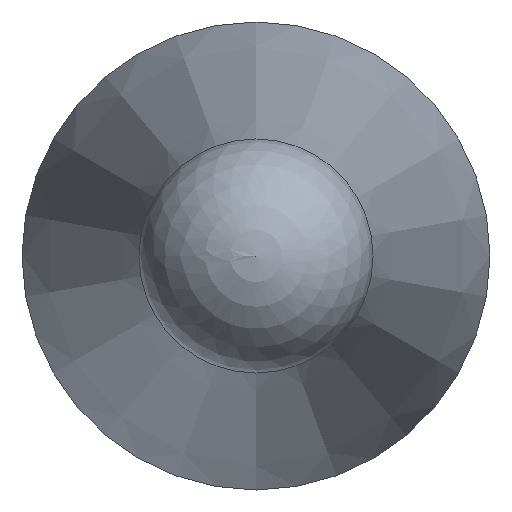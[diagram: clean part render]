
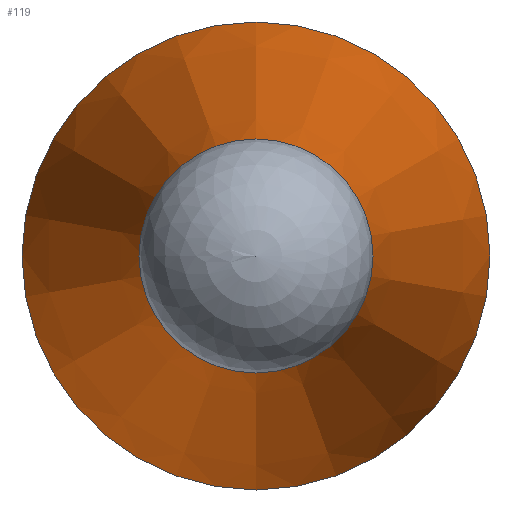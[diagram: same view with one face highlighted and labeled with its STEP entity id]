
A CAD part, left-side view. The second image highlights one B-rep face of the part: STEP entity #119.
In plain terms, the highlighted conical face has half-angle 11 degrees and reference radius 3 mm.
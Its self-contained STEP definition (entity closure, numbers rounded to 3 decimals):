
#93=CONICAL_SURFACE('',#191,3.,11.);
#106=FACE_BOUND('',#137,.T.);
#107=FACE_BOUND('',#138,.T.);
#119=ADVANCED_FACE('',(#106,#107),#93,.T.);
#137=EDGE_LOOP('',(#151));
#138=EDGE_LOOP('',(#152));
#151=ORIENTED_EDGE('',*,*,#168,.F.);
#152=ORIENTED_EDGE('',*,*,#169,.T.);
#161=VERTEX_POINT('',#244);
#162=VERTEX_POINT('',#247);
#168=EDGE_CURVE('',#161,#161,#175,.T.);
#169=EDGE_CURVE('',#162,#162,#176,.T.);
#175=CIRCLE('',#188,1.45);
#176=CIRCLE('',#190,3.);
#188=AXIS2_PLACEMENT_3D('',#243,#215,#216);
#190=AXIS2_PLACEMENT_3D('',#246,#219,#220);
#191=AXIS2_PLACEMENT_3D('',#248,#221,#222);
#215=DIRECTION('',(-1.,0.,0.));
#216=DIRECTION('',(0.,0.,1.));
#219=DIRECTION('',(-1.,0.,0.));
#220=DIRECTION('',(0.,0.,1.));
#221=DIRECTION('',(1.,0.,0.));
#222=DIRECTION('',(0.,0.,-1.));
#243=CARTESIAN_POINT('',(7876.809,6111.981,0.));
#244=CARTESIAN_POINT('',(7876.809,6111.981,1.45));
#246=CARTESIAN_POINT('',(7884.783,6111.981,0.));
#247=CARTESIAN_POINT('',(7884.783,6111.981,3.));
#248=CARTESIAN_POINT('',(7884.783,6111.981,0.));
